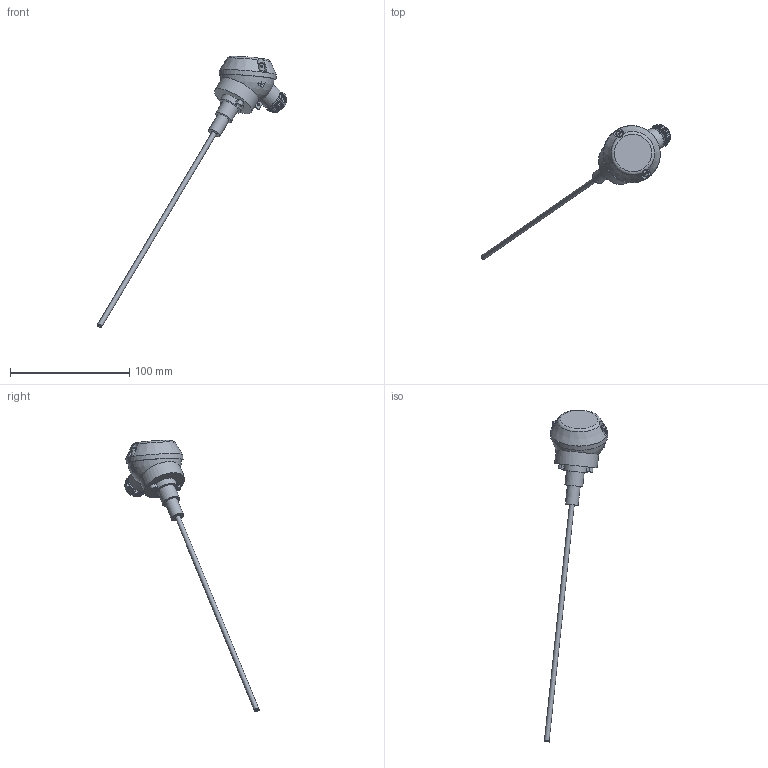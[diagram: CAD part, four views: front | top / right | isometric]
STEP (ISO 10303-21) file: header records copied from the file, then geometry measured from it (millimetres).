
FILE_DESCRIPTION(('STEP AP203'), '1');
FILE_NAME('òñï-í 5.0-200ìì(ñáîðêà)', '', ('UNSPECIFIED'), ('UNSPECIFIED'), 'ASCON STEP Converter 1.6', 'ASCON Math Kernel', '');
FILE_SCHEMA(('CONFIG_CONTROL_DESIGN'));
Length unit declared in the file: millimetre
Products named in the file (17): 栖闉罻; ﾘ琺矜 4; Ãàéêà Ì4; Êë êàëîäêà 731196-002; ﾘ琺矜 758480-006; Êîðïóñ 731196_Ïî óìîë÷àíèþ; Êîëüöî óïëîòíèòåëüíîå 754100-003_Ïî óìîë÷àíèþ; Âèíò Ì3-6; Âèíò 758410-005_Ïî óìîë÷àíèþ; Ïðîêëàäêà 754100_Ïî óìîë÷àíèþ; Êîðïóñ 723110-008-09_Ïî óìîë÷àíèþ; Çàãëóøêà 752513-004-01_Ïî óìîë÷àíèþ; Êðûøêà 753214_Ïî óìîë÷àíèþ; Ïåðåìû÷êà 758480-009; Âòóëêà ðåçüáîâàÿ 715341-002_Ïî óìîë÷àíèþ; Âèíò 715341-003_Ïî óìîë÷àíèþ
Assembly tree (40 placements, depth 3):
  栖闉罻
    ﾘ琺矜 4  x12
    Ãàéêà Ì4  x8
    Êë êàëîäêà 731196-002
    ﾘ琺矜 758480-006  x4
    Êîðïóñ 731196_Ïî óìîë÷àíèþ
    Êîëüöî óïëîòíèòåëüíîå 754100-003_Ïî óìîë÷àíèþ
    Âèíò Ì3-6  x2
    Âèíò 758410-005_Ïî óìîë÷àíèþ  x2
    Ïðîêëàäêà 754100_Ïî óìîë÷àíèþ
    Êîðïóñ 723110-008-09_Ïî óìîë÷àíèþ
      (unnamed)
      Çàãëóøêà 752513-004-01_Ïî óìîë÷àíèþ
    Êðûøêà 753214_Ïî óìîë÷àíèþ
    Ïåðåìû÷êà 758480-009  x2
    Âòóëêà ðåçüáîâàÿ 715341-002_Ïî óìîë÷àíèþ
    Âèíò 715341-003_Ïî óìîë÷àíèþ
Bounding box: 159.21 x 112.91 x 227.86 mm (x, y, z)
Volume: 41655 mm3; surface area: 37152.5 mm2
Topology: 39 solids, 39 shells, 821 faces, 2134 edges, 1416 vertices
Faces by surface type: plane 361, cylinder 305, cone 70, bspline 64, torus 19, sphere 2
Full cylindrical faces by diameter (mm): 1.6 x9, 2.46 x2, 2.5 x2, 3 x3, 3.4 x2, 3.5 x1, 4 x14, 4.2 x4, 4.3 x4, 4.5 x1, 5 x2, 5.2 x1, 6 x3, 7 x1, 8 x1, 9 x12, 10 x1, 10.8 x1, 14 x1, 15 x1, 19 x1, 20 x1, 31 x1, 33 x1, 35 x1, 36 x1, 45.5 x1, 46 x1, 48 x1
Entity records: 112943 total; most frequent: CARTESIAN_POINT 95135, ORIENTED_EDGE 2736, DIRECTION 2019, EDGE_CURVE 1368, VERTEX_POINT 950, AXIS2_PLACEMENT_3D 748, EDGE_LOOP 668, B_SPLINE_CURVE_WITH_KNOTS 593
